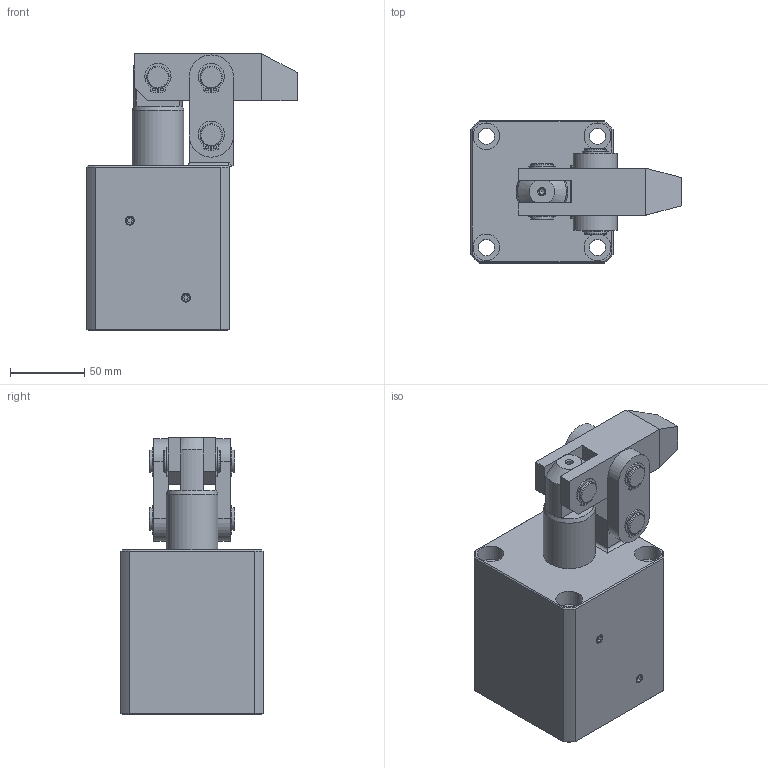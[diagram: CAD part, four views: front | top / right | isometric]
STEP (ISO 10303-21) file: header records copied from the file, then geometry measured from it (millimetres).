
FILE_DESCRIPTION(/* description */ ('Unknown'),/* implementation_level */ '2;1');
FILE_NAME(/* name */ 'HLC-M63-A',/* time_stamp */ '2022-11-23T04:17:56+08:00',/* author */ ('Unknown'),/* organization */ ('Unknown'),/* preprocessor_version */ 'ST-DEVELOPER v16.7',/* originating_system */ 'DEX',/* authorisation */ $);
FILE_SCHEMA (('AUTOMOTIVE_DESIGN {1 0 10303 214 3 1 1}'));
Length unit declared in the file: millimetre
Products named in the file (8): HLC-M63-A; HLC-M63-CYLINDER; HLC-6302-AXLE CENTRE; HLC-63-A; HLC-63-PINµu; HLC-63-PINªøonRefs; HLC-63-墊; HLC-63-C扣3
Assembly tree (14 placements, depth 2):
  HLC-M63-A
    HLC-M63-CYLINDER
    HLC-6302-AXLE CENTRE
    HLC-63-A
    HLC-63-PINµu
    HLC-63-PINªøonRefs  x2
    HLC-63-墊  x2
    HLC-63-C扣3  x6
Bounding box: 142 x 96 x 186.8 mm (x, y, z)
Volume: 1054463.2 mm3; surface area: 160785 mm2
Topology: 14 solids, 14 shells, 286 faces, 660 edges, 430 vertices
Faces by surface type: plane 134, cylinder 123, cone 27, torus 2
Full cylindrical faces by diameter (mm): 2 x12, 4 x1, 5 x2, 6 x2, 11 x4, 12 x2, 14.15 x6, 15 x18, 18 x4, 35 x2, 62.4 x1, 63 x1
Entity records: 5031 total; most frequent: DIRECTION 864, CARTESIAN_POINT 861, ORIENTED_EDGE 676, AXIS2_PLACEMENT_3D 348, EDGE_CURVE 338, FACE_BOUND 293, EDGE_LOOP 290, VERTEX_POINT 249
